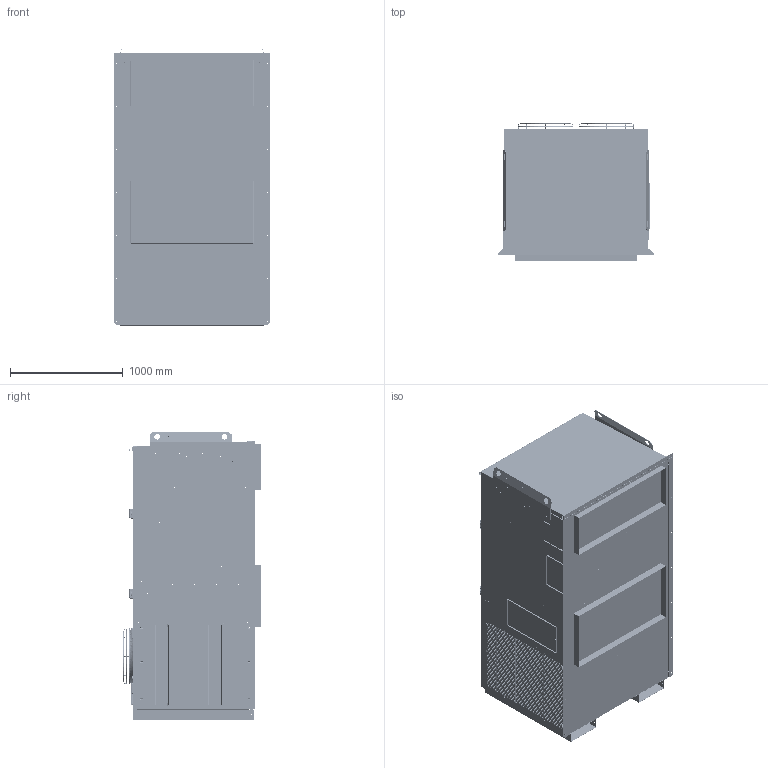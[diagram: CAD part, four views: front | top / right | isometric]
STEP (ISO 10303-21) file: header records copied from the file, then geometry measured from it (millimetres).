
FILE_DESCRIPTION (( 'STEP AP214' ), '1' );
FILE_NAME ('AVHDA090-AU.STEP', '2018-08-08T19:28:56', ( '' ), ( '' ), 'SwSTEP 2.0', 'SolidWorks 2016', '' );
FILE_SCHEMA (( 'AUTOMOTIVE_DESIGN' ));
Length unit declared in the file: inch
Products named in the file (37): MB09352; Part1^ECUA 120; MD09243; BLOCKOFF, SHELL, RETURN^ECUA 120; MD09219; BLOCKOFF, SHELL, CONDENSER^ECUA 120; MD09175; MD12224; MD09173; FAN GUARD AVHA90; MD09172; MD12188; MD09157; MD12220; MD09146; MD09389; MD09156; 901442; MD09145; 901442 RH TOP; MD09143; 901442 RH BOTTOM; MD09142; 92417; MD09133; PD81397; MD09132; MD09131; 81397 PART 3; MD09130; 81397 PART 2; MD09129; MD11715; MD11716; AVHDA090-AU
Assembly tree (60 placements, depth 3):
  AVHDA090-AU
    MD09129
    MD09130
    MD09131
    MD09132  x3
    MD09133
    MD09142  x2
    MD09143  x2
    MD09145
    MD09156
    MD09146
    MD09157
    MD09172
    MD09173  x2
    MD09175  x2
    MD09219
    MD09243  x2
    MB09352
    MD11715  x2
      MD11715
      MD11716
    PD81397  x2
      81397 PART 2
      81397 PART 3
      PD81397
    92417  x4
    901442  x2
      901442 RH BOTTOM
      901442 RH TOP
    MD09389
    MD12220
    MD12188  x2
    FAN GUARD AVHA90  x2
    MD12224
    BLOCKOFF, SHELL, CONDENSER^ECUA 120  x2
    BLOCKOFF, SHELL, RETURN^ECUA 120
    Part1^ECUA 120
Bounding box: 1377.7 x 1218.19 x 2554.3 mm (x, y, z)
Volume: 35510271.6 mm3; surface area: 44972932.4 mm2
Topology: 301 solids, 377 shells, 11080 faces, 31252 edges, 20006 vertices
Faces by surface type: bspline 4304, cylinder 3200, plane 2788, torus 424, cone 276, sphere 88
Full cylindrical faces by diameter (mm): 2.667 x158, 3.048 x40, 3.175 x18, 3.581 x110, 3.785 x149, 3.962 x6, 4.826 x40, 5.105 x33, 5.156 x44, 5.5 x16, 6.35 x232, 7.671 x8, 7.937 x12, 7.938 x28, 9.5 x6, 9.525 x63, 10 x8, 12.7 x16, 13.487 x8, 15.2 x4, 15.748 x12, 15.875 x24, 16.2 x4, 19.05 x14, 19.535 x1, 26.697 x1, 28 x4, 29.694 x24, 34.925 x2, 35.95 x12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
Entity records: 193493 total; most frequent: CARTESIAN_POINT 71600, ORIENTED_EDGE 18135, DIRECTION 16270, EDGE_CURVE 10102, VERTEX_POINT 6990, AXIS2_PLACEMENT_3D 6574, EDGE_LOOP 6563, FACE_OUTER_BOUND 5079
